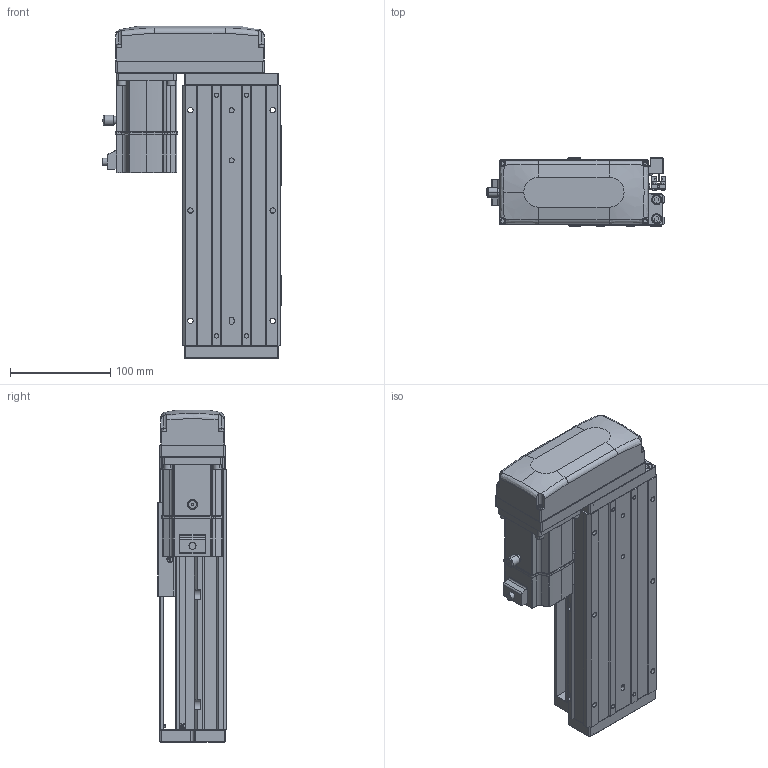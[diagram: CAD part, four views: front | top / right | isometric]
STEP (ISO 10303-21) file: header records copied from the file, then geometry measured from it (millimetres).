
FILE_DESCRIPTION (( 'STEP AP203' ), '1' );
FILE_NAME ('KTHA100-100-BR-M20-C4L.step', '2022-04-26T01:58:09', ( '微软用户' ), ( '微软中国' ), 'SwSTEP 2.0', 'SolidWorks 2020', '' );
FILE_SCHEMA (( 'CONFIG_CONTROL_DESIGN' ));
Length unit declared in the file: millimetre
Products named in the file (17): CTHA86-033; KTHA100-005; KTHA100-100-BR-M20-C4L; GB¨uT 70.2-M3¡Á5_M3¡Á6; GBT70.1 M5℅16; EE_SX911P_R; CTHA60-016; CTHA60-017; GBT 70.3-M3℅6; KTHA100-001_260; CTHA60-021; _X2_4E0983F1_X0_200W_1; KTHA100-002; GBT77-2000 M3×3; CTHA86-015-1_CTHA86-015-2; KTHA100-004; GBT 70.1-M3℅6
Assembly tree (57 placements, depth 2):
  KTHA100-100-BR-M20-C4L
    KTHA100-001_260
    KTHA100-002
    KTHA100-004
    KTHA100-005
    GB¨uT 70.2-M3¡Á5_M3¡Á6  x6
    EE_SX911P_R  x3
    CTHA60-017  x3
    CTHA60-021  x2
    GBT77-2000 M3×3  x6
    GBT 70.1-M3℅6  x10
    GBT70.1 M5℅16  x14
    CTHA60-016  x2
    GBT 70.3-M3℅6  x4
    _X2_4E0983F1_X0_200W_1
    CTHA86-015-1_CTHA86-015-2
    CTHA86-033
Bounding box: 178.52 x 68 x 331 mm (x, y, z)
Volume: 1913335.4 mm3; surface area: 323654.9 mm2
Topology: 60 solids, 60 shells, 2337 faces, 5553 edges, 3436 vertices
Faces by surface type: plane 1184, cylinder 647, cone 299, torus 116, bspline 75, sphere 16
Entity records: 38718 total; most frequent: CARTESIAN_POINT 7888, DIRECTION 5942, ORIENTED_EDGE 5718, EDGE_CURVE 2859, AXIS2_PLACEMENT_3D 2098, VERTEX_POINT 1796, VECTOR 1746, LINE 1746
